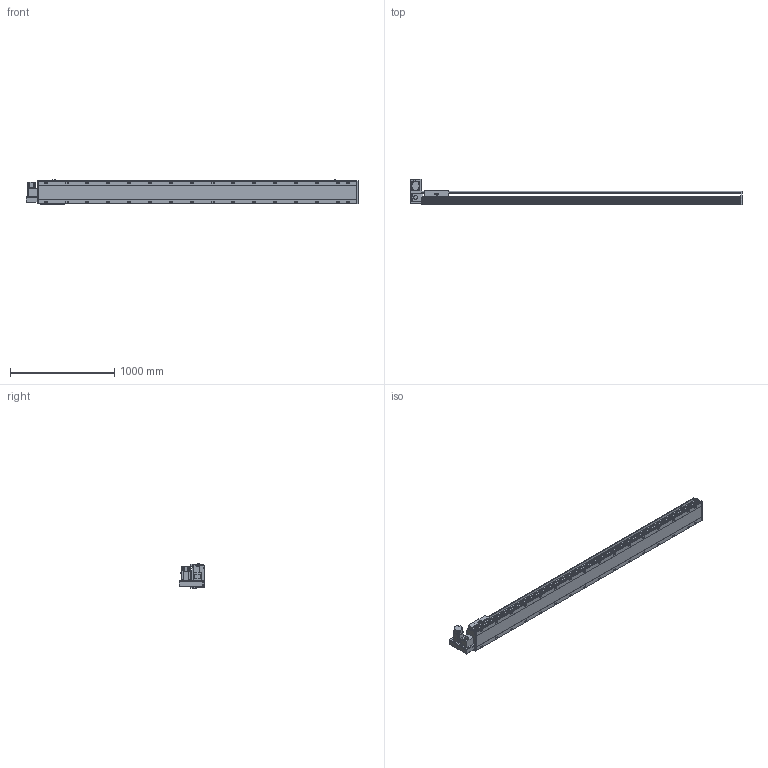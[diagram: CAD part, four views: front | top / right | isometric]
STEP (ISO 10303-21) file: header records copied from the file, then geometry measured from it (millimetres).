
FILE_DESCRIPTION(/* description */ ('STEP AP214'),/* implementation_level */ '2;1');
FILE_NAME(/* name */ 'PBS220-P40-S2700-LU-T75-C1-N(0)',/* time_stamp */ '2022-06-13T02:39:09+02:00',/* author */ ('License CC BY-ND 4.0'),/* organization */ ('CADENAS'),/* preprocessor_version */ 'ST-DEVELOPER v18.102',/* originating_system */ 'PARTsolutions',/* authorisation */ ' ');
FILE_SCHEMA (('AUTOMOTIVE_DESIGN {1 0 10303 214 3 1 1}'));
Length unit declared in the file: millimetre
Products named in the file (7): PBS220-P40-S2700-LU-T75-C1-N(0); PBS220_sensor; PBS220_plant; PBS220_sliser; T75-p1; PBS220T-LU_motors; PBS220-S2700()_body
Assembly tree (8 placements, depth 2):
  PBS220-P40-S2700-LU-T75-C1-N(0)
    PBS220_sensor  x3
    PBS220_plant
    PBS220_sliser
    T75-p1
    PBS220T-LU_motors
    PBS220-S2700()_body
Bounding box: 3184 x 247 x 238.5 mm (x, y, z)
Volume: 44349341.7 mm3; surface area: 4049447.5 mm2
Topology: 8 solids, 8 shells, 1010 faces, 2620 edges, 1702 vertices
Faces by surface type: plane 630, cylinder 324, cone 56
Full cylindrical faces by diameter (mm): 2.013 x4, 4.5 x14, 4.917 x4, 6 x7, 6.647 x8, 8 x10, 8.376 x32, 8.5 x32, 10 x6, 14 x32, 38 x2, 40 x1, 70 x1
Entity records: 28125 total; most frequent: CARTESIAN_POINT 5020, DIRECTION 4887, ORIENTED_EDGE 4394, EDGE_CURVE 2197, AXIS2_PLACEMENT_3D 1763, VERTEX_POINT 1544, LINE 1361, VECTOR 1361
